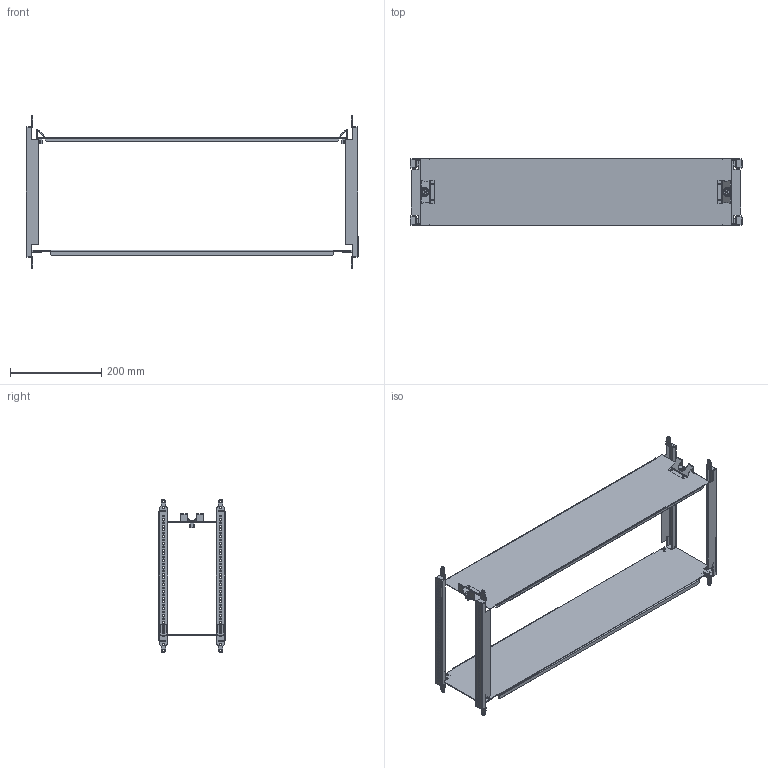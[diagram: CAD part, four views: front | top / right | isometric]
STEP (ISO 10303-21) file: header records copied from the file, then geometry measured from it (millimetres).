
FILE_DESCRIPTION(('CAx-IF Rec.Pracs.---Model Styling and Organization---1.2---2011-12-15','CAx-IF Rec.Pracs.---Geometric and Assembly Validation Properties---4.1---2014-06-16','CAx-IF Rec.Pracs.---PMI Polyline Presentation---2.0---2013-05-24'),'2;1');
FILE_NAME('R5PKIB0815.stp','2021-05-05T13:51:45+03:00',(''),(''),'STEP Interface 4.4 by CT CoreTechnologie','3D_Evolution4.4 by CT CoreTechnologie','');
FILE_SCHEMA(('AUTOMOTIVE_DESIGN { 1 0 10303 214 1 1 1 1 }'));
Length unit declared in the file: millimetre
Products named in the file (12): R5PKIB0815; RB.0348.00.00.0_-00; RB.0329.00.00.0_-00; RB.0516.00.00.0 ÑÁ_-03; RB.0392.00.02.0_ª«¨­ç(1); RB.0392.00.02.0_ª«¨­ç(2); RB.0516.00.01.0_-03; 294-9118.00-00050(1); RB.0376.00.00.0_-00; 294-9118.00-00050(2); RB.0586.00.00.0_-01; 294-9118.00-00050(3)
Assembly tree (19 placements, depth 3):
  R5PKIB0815
    RB.0348.00.00.0_-00  x4
    RB.0329.00.00.0_-00  x4
    RB.0516.00.00.0 ÑÁ_-03
      RB.0392.00.02.0_ª«¨­ç(1)
      RB.0392.00.02.0_ª«¨­ç(2)
      RB.0516.00.01.0_-03
    294-9118.00-00050(1)
      RB.0376.00.00.0_-00
      294-9118.00-00050(2)
    RB.0586.00.00.0_-01
    294-9118.00-00050(3)
      294-9118.00-00050(2)
      RB.0376.00.00.0_-00
Bounding box: 726 x 148 x 335 mm (x, y, z)
Surface area: 594197.3 mm2 (no closed solid volume)
Topology: 0 solids, 48 shells, 1094 faces, 2888 edges, 1888 vertices
Faces by surface type: plane 536, cylinder 526, bspline 32
Entity records: 15460 total; most frequent: CARTESIAN_POINT 2789, DIRECTION 2523, ORIENTED_EDGE 2450, EDGE_CURVE 1225, VECTOR 867, LINE 867, AXIS2_PLACEMENT_3D 828, VERTEX_POINT 802
